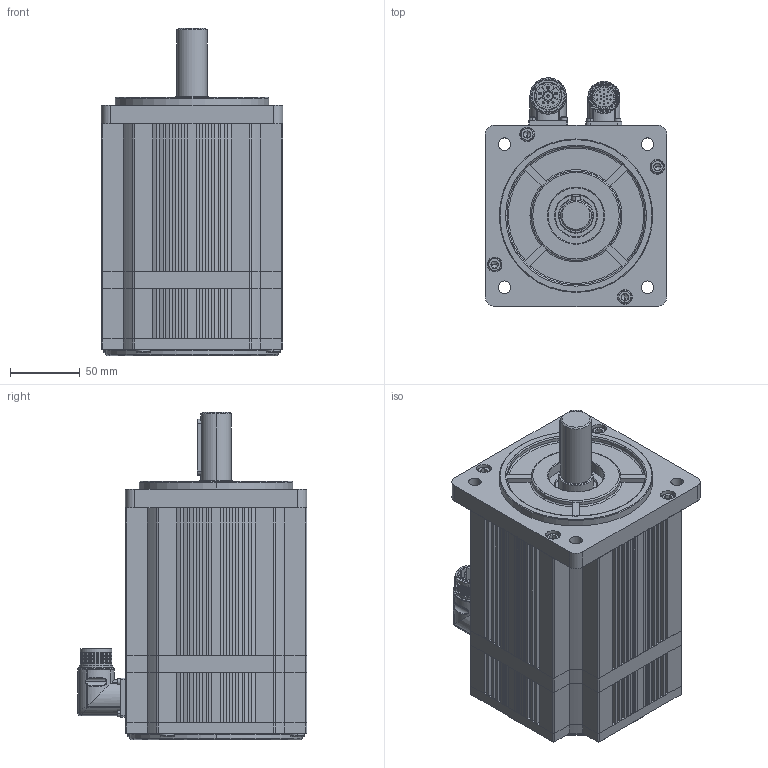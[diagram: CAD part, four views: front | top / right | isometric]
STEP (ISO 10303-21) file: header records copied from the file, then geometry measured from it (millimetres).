
FILE_DESCRIPTION (( 'STEP AP214' ), '1' );
FILE_NAME ('SMC130D-0200-20MAK-5LSP.STEP', '2022-09-14T05:32:36', ( '' ), ( '' ), 'SwSTEP 2.0', 'SolidWorks 2018', '' );
FILE_SCHEMA (( 'AUTOMOTIVE_DESIGN' ));
Length unit declared in the file: millimetre
Products named in the file (12): 郋弊莉陓瘍菁釱; 儂褲; 鎢攫欶綴裔; 綴傷裔; ヶ傷裔; SMC130D-0200-20MAK-5LSP; hexagon socket head cap screws gb_GB_FASTENER_SCREWS_HSHCS M6X20-N; hexagon socket head cap screws gb_GB_FASTENER_SCREWS_HSHCS M6X55-N; ぱ籵A倰瑩; 鎢攫欶褲极; 郋弊莉萇埭菁釱; hexagon socket head cap screws gb_GB_FASTENER_SCREWS_HSHCS M2.5X8-N
Assembly tree (24 placements, depth 2):
  SMC130D-0200-20MAK-5LSP
    ヶ傷裔
    儂褲
    綴傷裔
    鎢攫欶褲极
    鎢攫欶綴裔
    郋弊莉萇埭菁釱
    郋弊莉陓瘍菁釱
    hexagon socket head cap screws gb_GB_FASTENER_SCREWS_HSHCS M2.5X8-N  x8
    hexagon socket head cap screws gb_GB_FASTENER_SCREWS_HSHCS M6X55-N  x4
    ぱ籵A倰瑩
    hexagon socket head cap screws gb_GB_FASTENER_SCREWS_HSHCS M6X20-N  x4
Bounding box: 130 x 164.5 x 234.5 mm (x, y, z)
Volume: 2724256.6 mm3; surface area: 333078.4 mm2
Topology: 48 solids, 48 shells, 1859 faces, 4699 edges, 2975 vertices
Faces by surface type: plane 842, cylinder 778, cone 90, torus 90, sphere 46, bspline 13
Entity records: 59096 total; most frequent: CARTESIAN_POINT 10417, DIRECTION 8403, ORIENTED_EDGE 7714, EDGE_CURVE 3857, AXIS2_PLACEMENT_3D 3146, VERTEX_POINT 2500, VECTOR 2111, LINE 2111
